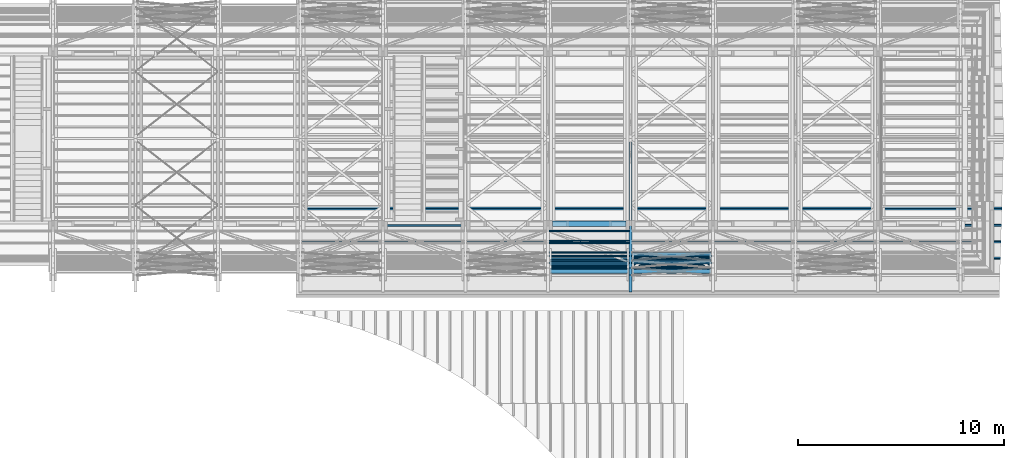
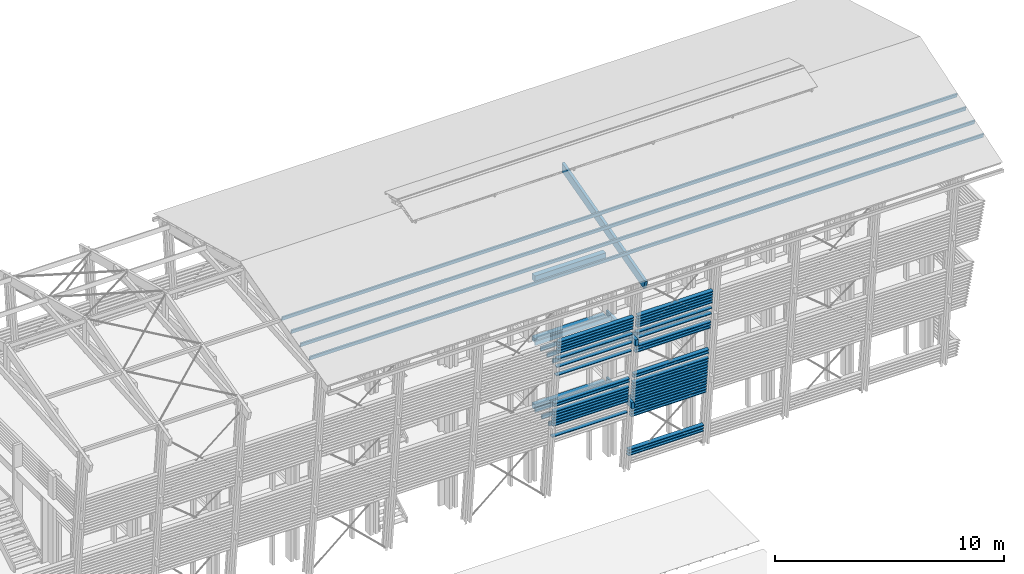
# One storey, part 17 of 48: 64 beams.
"""IFC2X3 building model written with IfcOpenShell, lengths in metres."""

import ifcopenshell
import ifcopenshell.guid

model = None  # the IFC model being written
_history = None  # IfcOwnerHistory: only IFC2X3 demands one
_inside = {}  # id of a spatial element -> (the spatial element, [elements in it])
_under = {}  # id of a project, library or spatial element -> (it, [spatial elements below it])
_declared = {}  # id of a project -> (the project, [libraries it declares])
_typed = {}  # id of a type object -> (the type object, [elements of that type])
_made_of = {}  # id of a material, layer set ... -> (it, [elements and type objects made of it])


def new_model(schema):
    """Start an empty IFC model of exactly this schema.

    Asked for "IFC4X3", IfcOpenShell would pick the latest addendum, in which some entities
    have other attributes; the version numbers below select the first issue.
    IFC2X3 requires an IfcOwnerHistory on every rooted entity: one is made here for all.
    """
    global model, _history
    if schema == "IFC4X3":
        model = ifcopenshell.file(schema_version=(4, 3, 0, 0))
    else:
        model = ifcopenshell.file(schema=schema)
    _inside.clear()
    _under.clear()
    _declared.clear()
    _typed.clear()
    _made_of.clear()
    _history = None
    if model.schema == "IFC2X3":
        org = make("IfcOrganization", Name="unknown")
        user = make(
            "IfcPersonAndOrganization",
            ThePerson=make("IfcPerson", FamilyName="unknown"),
            TheOrganization=org,
        )
        app = make(
            "IfcApplication",
            ApplicationDeveloper=org,
            Version="unknown",
            ApplicationFullName="unknown",
            ApplicationIdentifier="unknown",
        )
        _history = make(
            "IfcOwnerHistory",
            OwningUser=user,
            OwningApplication=app,
            ChangeAction="ADDED",
            CreationDate=0,
        )
    return model


def make(cls, **values):
    """One entity of the class cls with the attributes given. An attribute that is None is left unset."""
    return model.create_entity(
        cls, **{name: value for name, value in values.items() if value is not None}
    )


def rooted(cls, **values):
    """An entity with a GlobalId (a new one), such as an element, a storey or a relation."""
    return make(cls, GlobalId=ifcopenshell.guid.new(), OwnerHistory=_history, **values)


def si_unit(unit_type, name, prefix=None):
    """IfcSIUnit, for example si_unit("LENGTHUNIT", "METRE", prefix="MILLI")."""
    return make("IfcSIUnit", UnitType=unit_type, Prefix=prefix, Name=name)


def assignment(units):
    """IfcUnitAssignment: the units of a project."""
    return None if units is None else make("IfcUnitAssignment", Units=units)


def point(xyz):
    """IfcCartesianPoint."""
    return None if xyz is None else make("IfcCartesianPoint", Coordinates=xyz)


def direction(xyz):
    """IfcDirection."""
    return None if xyz is None else make("IfcDirection", DirectionRatios=xyz)


def frame(location, z_axis=None, x_axis=None):
    """IfcAxis2Placement3D, a coordinate frame: its origin and axes. An axis left out is left unset."""
    return make(
        "IfcAxis2Placement3D",
        Location=point(location),
        Axis=direction(z_axis),
        RefDirection=direction(x_axis),
    )


def origin_with_axes():
    """The frame at (0, 0, 0) with the z axis (0, 0, 1) and the x axis (1, 0, 0) written out."""
    return frame((0.0, 0.0, 0.0), z_axis=(0.0, 0.0, 1.0), x_axis=(1.0, 0.0, 0.0))


def place(relative_to, where):
    """IfcLocalPlacement: puts the frame where relative to a parent placement (None: the world)."""
    return make(
        "IfcLocalPlacement", PlacementRelTo=relative_to, RelativePlacement=where
    )


def context(
    kind, dimensions, precision=None, world=None, true_north=None, identifier=None
):
    """IfcGeometricRepresentationContext, for example the 3D "Model" context."""
    return make(
        "IfcGeometricRepresentationContext",
        ContextIdentifier=identifier,
        ContextType=kind,
        CoordinateSpaceDimension=dimensions,
        Precision=precision,
        WorldCoordinateSystem=world,
        TrueNorth=true_north,
    )


def subcontext(parent, identifier, kind, view, scale=None):
    """IfcGeometricRepresentationSubContext, for example "Body" below "Model"."""
    return make(
        "IfcGeometricRepresentationSubContext",
        ContextIdentifier=identifier,
        ContextType=kind,
        ParentContext=parent,
        TargetScale=scale,
        TargetView=view,
    )


def project(units=None, contexts=None):
    """IfcProject with its units and contexts."""
    return rooted(
        "IfcProject",
        Name="project",
        RepresentationContexts=contexts,
        UnitsInContext=assignment(units),
    )


def spatial(cls, under=None, at=None, **own):
    """A site, building, storey or space (cls), placed at a placement, below another one or the project."""
    s = rooted(cls, ObjectPlacement=at, **own)
    if under is not None:
        _under.setdefault(under.id(), (under, []))[1].append(s)
    return s


def faces_of(points, faces, orient=None, outer=None):
    """IfcFace entities. A face is a list of loops; a loop is a list of indices into points, from 0.

    orient and outer hold one flag for each loop. By default every Orientation is true, the
    first loop of a face is its IfcFaceOuterBound and the others are IfcFaceBound.
    """
    made = []
    for i, loops in enumerate(faces):
        bounds = []
        for j, loop in enumerate(loops):
            is_outer = j == 0 if outer is None else outer[i][j]
            bounds.append(
                make(
                    "IfcFaceOuterBound" if is_outer else "IfcFaceBound",
                    Bound=make("IfcPolyLoop", Polygon=[points[k] for k in loop]),
                    Orientation=True if orient is None else orient[i][j],
                )
            )
        made.append(make("IfcFace", Bounds=bounds))
    return made


def faceted_brep(points, faces, orient=None, outer=None, voids=None):
    """IfcFacetedBrep: a solid bounded by flat faces; with voids (closed shells), ...WithVoids."""
    shared = [point(p) for p in points]
    hull = make("IfcClosedShell", CfsFaces=faces_of(shared, faces, orient, outer))
    if voids is None:
        return make("IfcFacetedBrep", Outer=hull)
    return make(
        "IfcFacetedBrepWithVoids",
        Outer=hull,
        Voids=[
            make(cls, CfsFaces=faces_of(shared, fs, o, b)) for cls, fs, o, b in voids
        ],
    )


def shape(context_of_items, identifier, shape_type, items):
    """IfcShapeRepresentation: the items that make up one representation, for example the "Body"."""
    return make(
        "IfcShapeRepresentation",
        ContextOfItems=context_of_items,
        RepresentationIdentifier=identifier,
        RepresentationType=shape_type,
        Items=items,
    )


def material(Name=None, Category=None):
    """IfcMaterial."""
    return make("IfcMaterial", Name=Name, Category=Category)


def made_of(thing, what):
    """Note that an element or type object is made of a material, layer set ...; save() writes the relation."""
    if what is not None:
        _made_of.setdefault(what.id(), (what, []))[1].append(thing)
    return thing


def element(
    cls,
    number,
    at=None,
    inside=None,
    cuts=None,
    type_object=None,
    material=None,
    context=None,
    identifier="Body",
    shape_type=None,
    held_by="IfcProductDefinitionShape",
    body=None,
    shapes=None,
    **own,
):
    """One element of the class cls, such as IfcWall. Its Tag is "e" and its number.

    at: its placement. inside: the storey or other place that contains it. cuts: it is an
    opening in that element (IfcRelVoidsElement). A single representation is given by context,
    identifier, shape_type and body (its items); several are given by shapes. held_by: the class
    of the entity that holds the representations. save() writes the other relations.
    """
    e = rooted(cls, Tag="e%d" % number, ObjectPlacement=at, **own)
    if body is not None:
        shapes = [shape(context, identifier, shape_type, body)]
    if shapes is not None:
        e.Representation = make(held_by, Representations=shapes)
    if inside is not None:
        _inside.setdefault(inside.id(), (inside, []))[1].append(e)
    if cuts is not None:
        rooted(
            "IfcRelVoidsElement", RelatingBuildingElement=cuts, RelatedOpeningElement=e
        )
    if type_object is not None:
        _typed.setdefault(type_object.id(), (type_object, []))[1].append(e)
    return made_of(e, material)


def aggregate(whole, parts):
    """IfcRelAggregates: a whole, such as a stair, and the parts it consists of."""
    return rooted("IfcRelAggregates", RelatingObject=whole, RelatedObjects=parts)


def save(model, path):
    """Write the relations noted so far, then the file.

    IfcRelAggregates (storeys below a building ...), IfcRelContainedInSpatialStructure (elements
    in a storey), IfcRelDefinesByType, IfcRelAssociatesMaterial and IfcRelDeclares: one each for
    every whole, place, type object, material and project.
    """
    for whole, parts in _under.values():
        aggregate(whole, parts)
    for where, things in _inside.values():
        rooted(
            "IfcRelContainedInSpatialStructure",
            RelatedElements=things,
            RelatingStructure=where,
        )
    for kind, things in _typed.values():
        rooted("IfcRelDefinesByType", RelatedObjects=things, RelatingType=kind)
    for what, things in _made_of.values():
        rooted("IfcRelAssociatesMaterial", RelatedObjects=things, RelatingMaterial=what)
    for by, libraries in _declared.values():
        rooted("IfcRelDeclares", RelatingContext=by, RelatedDefinitions=libraries)
    model.write(path)


model = new_model("IFC2X3")

# Units and contexts
model_context = context("Model", 3, precision=1e-06, world=origin_with_axes(), true_north=direction((0.0, 1.0, 0.0)))
body_context = subcontext(model_context, "Body", "Model", "MODEL_VIEW")
ifc_project = project(units=[si_unit("LENGTHUNIT", "METRE"), si_unit("AREAUNIT", "SQUARE_METRE"), si_unit("VOLUMEUNIT", "CUBIC_METRE"), si_unit("PLANEANGLEUNIT", "RADIAN")], contexts=[model_context])

# Site, building, storey
site_placement = place(None, origin_with_axes())
site = spatial("IfcSite", under=ifc_project, at=site_placement, CompositionType="ELEMENT")
building_placement = place(site_placement, origin_with_axes())
building = spatial("IfcBuilding", under=site, at=building_placement, Name="Building 1", CompositionType="ELEMENT")
storey_placement = place(building_placement, origin_with_axes())
storey = spatial("IfcBuildingStorey", under=building, at=storey_placement, Name="Storey 1", CompositionType="ELEMENT", Elevation=0.0)

# Beams
ifc_material_1 = material(Name="GL28h")
beam_1_placement = place(storey_placement, frame((53.5597437, -194.898689, 4.139), z_axis=(0.0, 0.0, 1.0), x_axis=(1.0, 0.0, 0.0)))
element("IfcBeam", 1, at=beam_1_placement, inside=storey, material=ifc_material_1, Name="Solive", context=body_context, shape_type="Brep", body=[
    faceted_brep([(3.86, 0.035, 0.11), (3.86, 0.035, -0.11), (0.0, 0.035, -0.11), (0.0, 0.035, 0.11), (3.86, -0.035, -0.11), (0.0, -0.035, -0.11), (3.86, -0.035, 0.11), (0.0, -0.035, 0.11)], [[[0, 1, 2, 3]], [[1, 4, 5, 2]], [[4, 6, 7, 5]], [[6, 0, 3, 7]], [[1, 0, 6, 4]], [[7, 3, 2, 5]]]),
])
beam_2_placement = place(storey_placement, frame((71.4757559, -193.4086075, 12.399615), z_axis=(0.0, -0.258819, 0.9659258), x_axis=(-1.0, 0.0, 0.0)))
element("IfcBeam", 2, at=beam_2_placement, inside=storey, material=ifc_material_1, Name="pannes", context=body_context, shape_type="Brep", body=[
    faceted_brep([(0.0019346, 0.035, -0.11), (0.0, -0.035, -0.11), (0.0016292, -0.035, 0.11), (0.0035637, 0.035, 0.11), (34.0560122, -0.035, -0.11), (34.0560122, -0.035, 0.11), (34.0560122, 0.035, -0.11), (34.0560122, 0.035, 0.11)], [[[0, 1, 2, 3]], [[2, 1, 4, 5]], [[1, 0, 6, 4]], [[0, 3, 7, 6]], [[3, 2, 5, 7]], [[5, 4, 6, 7]]]),
])
beam_3_placement = place(storey_placement, frame((71.4988327, -192.6020595, 12.6157289), z_axis=(0.0, -0.258819, 0.9659258), x_axis=(-1.0, 0.0, 0.0)))
element("IfcBeam", 3, at=beam_3_placement, inside=storey, material=ifc_material_1, Name="pannes", context=body_context, shape_type="Brep", body=[
    faceted_brep([(0.0019346, 0.035, -0.11), (0.0, -0.035, -0.11), (0.0016292, -0.035, 0.11), (0.0035637, 0.035, 0.11), (34.079089, -0.035, -0.11), (34.079089, -0.035, 0.11), (34.079089, 0.035, -0.11), (34.079089, 0.035, 0.11)], [[[0, 1, 2, 3]], [[2, 1, 4, 5]], [[1, 0, 6, 4]], [[0, 3, 7, 6]], [[3, 2, 5, 7]], [[5, 4, 6, 7]]]),
])
beam_4_placement = place(storey_placement, frame((71.4296024, -195.0217037, 11.9673872), z_axis=(0.0, -0.258819, 0.9659258), x_axis=(-1.0, 0.0, 0.0)))
element("IfcBeam", 4, at=beam_4_placement, inside=storey, material=ifc_material_1, Name="pannes", context=body_context, shape_type="Brep", body=[
    faceted_brep([(0.0019346, 0.035, -0.11), (0.0, -0.035, -0.11), (0.0016292, -0.035, 0.11), (0.0035637, 0.035, 0.11), (34.0098587, -0.035, -0.11), (34.0098587, -0.035, 0.11), (34.0098587, 0.035, -0.11), (34.0098587, 0.035, 0.11)], [[[0, 1, 2, 3]], [[2, 1, 4, 5]], [[1, 0, 6, 4]], [[0, 3, 7, 6]], [[3, 2, 5, 7]], [[5, 4, 6, 7]]]),
])
beam_5_placement = place(storey_placement, frame((71.4526792, -194.2151556, 12.1835011), z_axis=(0.0, -0.258819, 0.9659258), x_axis=(-1.0, 0.0, 0.0)))
element("IfcBeam", 5, at=beam_5_placement, inside=storey, material=ifc_material_1, Name="pannes", context=body_context, shape_type="Brep", body=[
    faceted_brep([(0.0019346, 0.035, -0.11), (0.0, -0.035, -0.11), (0.0016292, -0.035, 0.11), (0.0035637, 0.035, 0.11), (34.0329355, -0.035, -0.11), (34.0329355, -0.035, 0.11), (34.0329355, 0.035, -0.11), (34.0329355, 0.035, 0.11)], [[[0, 1, 2, 3]], [[2, 1, 4, 5]], [[1, 0, 6, 4]], [[0, 3, 7, 6]], [[3, 2, 5, 7]], [[5, 4, 6, 7]]]),
])
ifc_material_2 = material(Name="Moabi")
beam_6_placement = place(storey_placement, frame((57.3927439, -195.0773447, 3.5773858), z_axis=(0.0, 0.9945219, 0.1045285), x_axis=(-1.0, 0.0, 0.0)))
element("IfcBeam", 6, at=beam_6_placement, inside=storey, material=ifc_material_2, Name="garde corp", context=body_context, shape_type="Brep", body=[
    faceted_brep([(3.8047071, 0.02, -0.1), (3.8047071, -0.02, -0.1), (0.0, -0.02, -0.1), (0.0, 0.02, -0.1), (3.8047071, -0.02, 0.1), (0.0, -0.02, 0.1), (3.8047071, 0.02, 0.1), (0.0, 0.02, 0.1)], [[[0, 1, 2, 3]], [[1, 4, 5, 2]], [[4, 6, 7, 5]], [[6, 0, 3, 7]], [[1, 0, 6, 4]], [[7, 3, 2, 5]]]),
])
for number, where, z_axis, x_axis, name in (
    (7, (57.3927441, -195.4285604, 6.9189793), (0.0, 0.9945219, 0.1045285), (-1.0, 0.0, 0.0), "garde corp"),
    (8, (57.3927441, -195.4620095, 7.2372263), (0.0, 0.9945219, 0.1045285), (-1.0, 0.0, 0.0), "garde corp"),
):
    element("IfcBeam", number, at=place(storey_placement, frame(where, z_axis=z_axis, x_axis=x_axis)), inside=storey, material=ifc_material_2, Name=name, context=body_context, shape_type="Brep", body=[
        faceted_brep([(3.8050008, 0.02, -0.1), (3.8050008, -0.02, -0.1), (0.0, -0.02, -0.1), (0.0, 0.02, -0.1), (3.8050008, -0.02, 0.1), (0.0, -0.02, 0.1), (3.8050008, 0.02, 0.1), (0.0, 0.02, 0.1)], [[[0, 1, 2, 3]], [[1, 4, 5, 2]], [[4, 6, 7, 5]], [[6, 0, 3, 7]], [[1, 0, 6, 4]], [[7, 3, 2, 5]]]),
    ])
beam_7_placement = place(storey_placement, frame((57.3927439, -195.2278657, 5.0094973), z_axis=(0.0, 0.9945219, 0.1045285), x_axis=(-1.0, 0.0, 0.0)))
element("IfcBeam", 9, at=beam_7_placement, inside=storey, material=ifc_material_2, Name="garde corp", context=body_context, shape_type="Brep", body=[
    faceted_brep([(3.8047069, 0.02, -0.1), (3.8047071, -0.02, -0.1), (0.0, -0.02, -0.1), (0.0, 0.02, -0.1), (3.8047069, -0.02, 0.1), (0.0, -0.02, 0.1), (3.8047071, 0.02, 0.1), (0.0, 0.02, 0.1)], [[[0, 1, 2, 3]], [[1, 4, 5, 2]], [[4, 6, 7, 5]], [[6, 0, 3, 7]], [[1, 0, 6, 4]], [[7, 3, 2, 5]]]),
])
beam_8_placement = place(storey_placement, frame((57.3927439, -195.1609675, 4.3730033), z_axis=(0.0, 0.9945219, 0.1045285), x_axis=(-1.0, 0.0, 0.0)))
element("IfcBeam", 10, at=beam_8_placement, inside=storey, material=ifc_material_2, Name="garde corp", context=body_context, shape_type="Brep", body=[
    faceted_brep([(3.8048051, 0.02, -0.1), (3.8048051, -0.02, -0.1), (0.0, -0.02, -0.1), (0.0, 0.02, -0.1), (3.8048051, -0.02, 0.1), (0.0, -0.02, 0.1), (3.8048051, 0.02, 0.1), (0.0, 0.02, 0.1)], [[[0, 1, 2, 3]], [[1, 4, 5, 2]], [[4, 6, 7, 5]], [[6, 0, 3, 7]], [[1, 0, 6, 4]], [[7, 3, 2, 5]]]),
])
beam_9_placement = place(storey_placement, frame((57.3927441, -195.5790813, 8.3510909), z_axis=(0.0, 0.9945219, 0.1045285), x_axis=(-1.0, 0.0, 0.0)))
element("IfcBeam", 11, at=beam_9_placement, inside=storey, material=ifc_material_2, Name="garde corp", context=body_context, shape_type="Brep", body=[
    faceted_brep([(3.8050008, 0.02, -0.1), (3.8050008, -0.02, -0.1), (0.0, -0.02, -0.1), (0.0, 0.02, -0.1), (3.8050008, -0.02, 0.1), (0.0, -0.02, 0.1), (3.8050008, 0.02, 0.1), (0.0, 0.02, 0.1)], [[[0, 1, 2, 3]], [[1, 4, 5, 2]], [[4, 6, 7, 5]], [[6, 0, 3, 7]], [[1, 0, 6, 4]], [[7, 3, 2, 5]]]),
])
beam_10_placement = place(storey_placement, frame((49.5597437, -193.6846515, 4.139), z_axis=(0.0, 0.0, 1.0), x_axis=(1.0, 0.0, 0.0)))
element("IfcBeam", 12, at=beam_10_placement, inside=storey, material=ifc_material_1, Name="Solive", context=body_context, shape_type="Brep", body=[
    faceted_brep([(3.86, 0.035, 0.11), (3.86, 0.035, -0.11), (0.0, 0.035, -0.11), (0.0, 0.035, 0.11), (3.86, -0.035, -0.11), (0.0, -0.035, -0.11), (3.86, -0.035, 0.11), (0.0, -0.035, 0.11)], [[[0, 1, 2, 3]], [[1, 4, 5, 2]], [[4, 6, 7, 5]], [[6, 0, 3, 7]], [[1, 0, 6, 4]], [[7, 3, 2, 5]]]),
])
beam_11_placement = place(storey_placement, frame((49.5597437, -195.2446515, 7.699), z_axis=(0.0, 0.0, 1.0), x_axis=(1.0, 0.0, 0.0)))
element("IfcBeam", 13, at=beam_11_placement, inside=storey, material=ifc_material_1, Name="Solive", context=body_context, shape_type="Brep", body=[
    faceted_brep([(0.0, -0.035, -0.11), (0.0, -0.035, 0.11), (0.0, 0.035, 0.11), (0.0, 0.035, -0.11), (3.8599996, -0.035, 0.11), (3.8599996, 0.035, 0.11), (3.8599996, -0.035, -0.11), (3.8599996, 0.035, -0.11)], [[[0, 1, 2, 3]], [[2, 1, 4, 5]], [[1, 0, 6, 4]], [[0, 3, 7, 6]], [[3, 2, 5, 7]], [[7, 5, 4, 6]]]),
])
beam_12_placement = place(storey_placement, frame((53.3927441, -195.4954586, 7.5554733), z_axis=(0.0, 0.9945219, 0.1045285), x_axis=(-1.0, 0.0, 0.0)))
element("IfcBeam", 14, at=beam_12_placement, inside=storey, material=ifc_material_2, Name="garde corp", context=body_context, shape_type="Brep", body=[
    faceted_brep([(3.806, 0.02, -0.1), (3.806, -0.02, -0.1), (0.0, -0.02, -0.1), (0.0, 0.02, -0.1), (3.806, -0.02, 0.1), (0.0, -0.02, 0.1), (3.806, 0.02, 0.1), (0.0, 0.02, 0.1)], [[[0, 1, 2, 3]], [[1, 4, 5, 2]], [[4, 6, 7, 5]], [[6, 0, 3, 7]], [[1, 0, 6, 4]], [[7, 3, 2, 5]]]),
])
beam_13_placement = place(storey_placement, frame((57.3927441, -195.629255, 8.8284614), z_axis=(0.0, 0.9945219, 0.1045285), x_axis=(-1.0, 0.0, 0.0)))
element("IfcBeam", 15, at=beam_13_placement, inside=storey, material=ifc_material_2, Name="garde corp", context=body_context, shape_type="Brep", body=[
    faceted_brep([(3.8050008, 0.02, -0.1), (3.8050008, -0.02, -0.1), (0.0, -0.02, -0.1), (0.0, 0.02, -0.1), (3.8050008, -0.02, 0.1), (0.0, -0.02, 0.1), (3.8050008, 0.02, 0.1), (0.0, 0.02, 0.1)], [[[0, 1, 2, 3]], [[1, 4, 5, 2]], [[4, 6, 7, 5]], [[6, 0, 3, 7]], [[1, 0, 6, 4]], [[7, 3, 2, 5]]]),
])
for number, where, z_axis, x_axis, name in (
    (16, (53.3927441, -195.5790813, 8.3510909), (0.0, 0.9945219, 0.1045285), (-1.0, 0.0, 0.0), "garde corp"),
    (17, (53.3927437, -195.5456322, 8.0328439), (0.0, 0.9945219, 0.1045285), (-1.0, 0.0, 0.0), "garde corp"),
):
    element("IfcBeam", number, at=place(storey_placement, frame(where, z_axis=z_axis, x_axis=x_axis)), inside=storey, material=ifc_material_2, Name=name, context=body_context, shape_type="Brep", body=[
        faceted_brep([(3.806, 0.02, -0.1), (3.806, -0.02, -0.1), (0.0, -0.02, -0.1), (0.0, 0.02, -0.1), (3.806, -0.02, 0.1), (0.0, -0.02, 0.1), (3.806, 0.02, 0.1), (0.0, 0.02, 0.1)], [[[0, 1, 2, 3]], [[1, 4, 5, 2]], [[4, 6, 7, 5]], [[6, 0, 3, 7]], [[1, 0, 6, 4]], [[7, 3, 2, 5]]]),
    ])
beam_14_placement = place(storey_placement, frame((53.3927439, -195.177692, 4.5321268), z_axis=(0.0, 0.9945219, 0.1045285), x_axis=(-1.0, 0.0, 0.0)))
element("IfcBeam", 18, at=beam_14_placement, inside=storey, material=ifc_material_2, Name="garde corp", context=body_context, shape_type="Brep", body=[
    faceted_brep([(3.8047069, 0.02, -0.1), (3.8047071, -0.02, -0.1), (0.0, -0.02, -0.1), (0.0, 0.02, -0.1), (3.8047069, -0.02, 0.1), (0.0, -0.02, 0.1), (3.8047071, 0.02, 0.1), (0.0, 0.02, 0.1)], [[[0, 1, 2, 3]], [[1, 4, 5, 2]], [[4, 6, 7, 5]], [[6, 0, 3, 7]], [[1, 0, 6, 4]], [[7, 3, 2, 5]]]),
])
beam_15_placement = place(storey_placement, frame((53.3927439, -195.2780394, 5.4868678), z_axis=(0.0, 0.9945219, 0.1045285), x_axis=(-1.0, 0.0, 0.0)))
element("IfcBeam", 19, at=beam_15_placement, inside=storey, material=ifc_material_2, Name="garde corp", context=body_context, shape_type="Brep", body=[
    faceted_brep([(3.8047069, 0.02, -0.1), (3.8047069, -0.02, -0.1), (0.0, -0.02, -0.1), (0.0, 0.02, -0.1), (3.8047069, -0.02, 0.1), (0.0, -0.02, 0.1), (3.8047071, 0.02, 0.1), (0.0, 0.02, 0.1)], [[[0, 1, 2, 3]], [[1, 4, 5, 2]], [[4, 6, 7, 5]], [[6, 0, 3, 7]], [[1, 0, 6, 4]], [[7, 3, 2, 5]]]),
])
beam_16_placement = place(storey_placement, frame((53.3927441, -195.5958059, 8.5102144), z_axis=(0.0, 0.9945219, 0.1045285), x_axis=(-1.0, 0.0, 0.0)))
element("IfcBeam", 20, at=beam_16_placement, inside=storey, material=ifc_material_2, Name="garde corp", context=body_context, shape_type="Brep", body=[
    faceted_brep([(3.806, 0.02, -0.1), (3.806, -0.02, -0.1), (0.0, -0.02, -0.1), (0.0, 0.02, -0.1), (3.806, -0.02, 0.1), (0.0, -0.02, 0.1), (3.806, 0.02, 0.1), (0.0, 0.02, 0.1)], [[[0, 1, 2, 3]], [[1, 4, 5, 2]], [[4, 6, 7, 5]], [[6, 0, 3, 7]], [[1, 0, 6, 4]], [[7, 3, 2, 5]]]),
])
beam_17_placement = place(storey_placement, frame((53.3927439, -195.2278657, 5.0094973), z_axis=(0.0, 0.9945219, 0.1045285), x_axis=(-1.0, 0.0, 0.0)))
element("IfcBeam", 21, at=beam_17_placement, inside=storey, material=ifc_material_2, Name="garde corp", context=body_context, shape_type="Brep", body=[
    faceted_brep([(3.8047069, 0.02, -0.1), (3.8047071, -0.02, -0.1), (0.0, -0.02, -0.1), (0.0, 0.02, -0.1), (3.8047069, -0.02, 0.1), (0.0, -0.02, 0.1), (3.8047071, 0.02, 0.1), (0.0, 0.02, 0.1)], [[[0, 1, 2, 3]], [[1, 4, 5, 2]], [[4, 6, 7, 5]], [[6, 0, 3, 7]], [[1, 0, 6, 4]], [[7, 3, 2, 5]]]),
])
beam_18_placement = place(storey_placement, frame((53.3927441, -195.629255, 8.8284614), z_axis=(0.0, 0.9945219, 0.1045285), x_axis=(-1.0, 0.0, 0.0)))
element("IfcBeam", 22, at=beam_18_placement, inside=storey, material=ifc_material_2, Name="garde corp", context=body_context, shape_type="Brep", body=[
    faceted_brep([(3.806, 0.02, -0.1), (3.806, -0.02, -0.1), (0.0, -0.02, -0.1), (0.0, 0.02, -0.1), (3.806, -0.02, 0.1), (0.0, -0.02, 0.1), (3.806, 0.02, 0.1), (0.0, 0.02, 0.1)], [[[0, 1, 2, 3]], [[1, 4, 5, 2]], [[4, 6, 7, 5]], [[6, 0, 3, 7]], [[1, 0, 6, 4]], [[7, 3, 2, 5]]]),
])
beam_19_placement = place(storey_placement, frame((53.3927439, -195.1944166, 4.6912503), z_axis=(0.0, 0.9945219, 0.1045285), x_axis=(-1.0, 0.0, 0.0)))
element("IfcBeam", 23, at=beam_19_placement, inside=storey, material=ifc_material_2, Name="garde corp", context=body_context, shape_type="Brep", body=[
    faceted_brep([(3.8047069, 0.02, -0.1), (3.8047071, -0.02, -0.1), (0.0, -0.02, -0.1), (0.0, 0.02, -0.1), (3.8047071, -0.02, 0.1), (0.0, -0.02, 0.1), (3.8047071, 0.02, 0.1), (0.0, 0.02, 0.1)], [[[0, 1, 2, 3]], [[1, 4, 5, 2]], [[4, 6, 7, 5]], [[6, 0, 3, 7]], [[1, 0, 6, 4]], [[7, 3, 2, 5]]]),
])
beam_20_placement = place(storey_placement, frame((53.3927439, -195.2613148, 5.3277443), z_axis=(0.0, 0.9945219, 0.1045285), x_axis=(-1.0, 0.0, 0.0)))
element("IfcBeam", 24, at=beam_20_placement, inside=storey, material=ifc_material_2, Name="garde corp", context=body_context, shape_type="Brep", body=[
    faceted_brep([(3.8048055, 0.02, -0.1), (3.8048055, -0.02, -0.1), (0.0, -0.02, -0.1), (0.0, 0.02, -0.1), (3.8048055, -0.02, 0.1), (0.0, -0.02, 0.1), (3.8048055, 0.02, 0.1), (0.0, 0.02, 0.1)], [[[0, 1, 2, 3]], [[1, 4, 5, 2]], [[4, 6, 7, 5]], [[6, 0, 3, 7]], [[1, 0, 6, 4]], [[7, 3, 2, 5]]]),
])
beam_21_placement = place(storey_placement, frame((53.3927439, -195.0773447, 3.5773858), z_axis=(0.0, 0.9945219, 0.1045285), x_axis=(-1.0, 0.0, 0.0)))
element("IfcBeam", 25, at=beam_21_placement, inside=storey, material=ifc_material_2, Name="garde corp", context=body_context, shape_type="Brep", body=[
    faceted_brep([(3.8047071, 0.02, -0.1), (3.8047071, -0.02, -0.1), (0.0, -0.02, -0.1), (0.0, 0.02, -0.1), (3.8047071, -0.02, 0.1), (0.0, -0.02, 0.1), (3.8047071, 0.02, 0.1), (0.0, 0.02, 0.1)], [[[0, 1, 2, 3]], [[1, 4, 5, 2]], [[4, 6, 7, 5]], [[6, 0, 3, 7]], [[1, 0, 6, 4]], [[7, 3, 2, 5]]]),
])
beam_22_placement = place(storey_placement, frame((53.3927439, -195.1442429, 4.2138798), z_axis=(0.0, 0.9945219, 0.1045285), x_axis=(-1.0, 0.0, 0.0)))
element("IfcBeam", 26, at=beam_22_placement, inside=storey, material=ifc_material_2, Name="garde corp", context=body_context, shape_type="Brep", body=[
    faceted_brep([(3.8048051, 0.02, -0.1), (3.8048051, -0.02, -0.1), (0.0, -0.02, -0.1), (0.0, 0.02, -0.1), (3.8048051, -0.02, 0.1), (0.0, -0.02, 0.1), (3.8048051, 0.02, 0.1), (0.0, 0.02, 0.1)], [[[0, 1, 2, 3]], [[1, 4, 5, 2]], [[4, 6, 7, 5]], [[6, 0, 3, 7]], [[1, 0, 6, 4]], [[7, 3, 2, 5]]]),
])
beam_23_placement = place(storey_placement, frame((53.3927439, -195.2111412, 4.8503738), z_axis=(0.0, 0.9945219, 0.1045285), x_axis=(-1.0, 0.0, 0.0)))
element("IfcBeam", 27, at=beam_23_placement, inside=storey, material=ifc_material_2, Name="garde corp", context=body_context, shape_type="Brep", body=[
    faceted_brep([(3.8048055, 0.02, -0.1), (3.8048055, -0.02, -0.1), (0.0, -0.02, -0.1), (0.0, 0.02, -0.1), (3.8048055, -0.02, 0.1), (0.0, -0.02, 0.1), (3.8048055, 0.02, 0.1), (0.0, 0.02, 0.1)], [[[0, 1, 2, 3]], [[1, 4, 5, 2]], [[4, 6, 7, 5]], [[6, 0, 3, 7]], [[1, 0, 6, 4]], [[7, 3, 2, 5]]]),
])
beam_24_placement = place(storey_placement, frame((53.3927439, -195.1609675, 4.3730033), z_axis=(0.0, 0.9945219, 0.1045285), x_axis=(-1.0, 0.0, 0.0)))
element("IfcBeam", 28, at=beam_24_placement, inside=storey, material=ifc_material_2, Name="garde corp", context=body_context, shape_type="Brep", body=[
    faceted_brep([(3.8048051, 0.02, -0.1), (3.8048051, -0.02, -0.1), (0.0, -0.02, -0.1), (0.0, 0.02, -0.1), (3.8048051, -0.02, 0.1), (0.0, -0.02, 0.1), (3.8048051, 0.02, 0.1), (0.0, 0.02, 0.1)], [[[0, 1, 2, 3]], [[1, 4, 5, 2]], [[4, 6, 7, 5]], [[6, 0, 3, 7]], [[1, 0, 6, 4]], [[7, 3, 2, 5]]]),
])
for number, where, z_axis, x_axis, name in (
    (29, (53.3927441, -195.4452849, 7.0781028), (0.0, 0.9945219, 0.1045285), (-1.0, 0.0, 0.0), "garde corp"),
    (30, (53.3927437, -195.6459796, 8.9875849), (0.0, 0.9945219, 0.1045285), (-1.0, 0.0, 0.0), "garde corp"),
    (31, (53.3927437, -195.6125305, 8.6693379), (0.0, 0.9945219, 0.1045285), (-1.0, 0.0, 0.0), "garde corp"),
):
    element("IfcBeam", number, at=place(storey_placement, frame(where, z_axis=z_axis, x_axis=x_axis)), inside=storey, material=ifc_material_2, Name=name, context=body_context, shape_type="Brep", body=[
        faceted_brep([(3.806, 0.02, -0.1), (3.806, -0.02, -0.1), (0.0, -0.02, -0.1), (0.0, 0.02, -0.1), (3.806, -0.02, 0.1), (0.0, -0.02, 0.1), (3.806, 0.02, 0.1), (0.0, 0.02, 0.1)], [[[0, 1, 2, 3]], [[1, 4, 5, 2]], [[4, 6, 7, 5]], [[6, 0, 3, 7]], [[1, 0, 6, 4]], [[7, 3, 2, 5]]]),
    ])
beam_25_placement = place(storey_placement, frame((49.5597437, -194.1646515, 7.699), z_axis=(0.0, 0.0, 1.0), x_axis=(1.0, 0.0, 0.0)))
element("IfcBeam", 32, at=beam_25_placement, inside=storey, material=ifc_material_1, Name="Solive", context=body_context, shape_type="Brep", body=[
    faceted_brep([(3.86, 0.035, 0.11), (3.86, 0.035, -0.11), (0.0, 0.035, -0.11), (0.0, 0.035, 0.11), (3.86, -0.035, -0.11), (0.0, -0.035, -0.11), (3.86, -0.035, 0.11), (0.0, -0.035, 0.11)], [[[0, 1, 2, 3]], [[1, 4, 5, 2]], [[4, 6, 7, 5]], [[6, 0, 3, 7]], [[1, 0, 6, 4]], [[7, 3, 2, 5]]]),
])
beam_26_placement = place(storey_placement, frame((53.5597437, -195.2446515, 7.699), z_axis=(0.0, 0.0, 1.0), x_axis=(1.0, 0.0, 0.0)))
element("IfcBeam", 33, at=beam_26_placement, inside=storey, material=ifc_material_1, Name="Solive", context=body_context, shape_type="Brep", body=[
    faceted_brep([(0.0, -0.035, -0.11), (0.0, -0.035, 0.11), (0.0, 0.035, 0.11), (0.0, 0.035, -0.11), (3.8599996, -0.035, 0.11), (3.8599996, 0.035, 0.11), (3.8599996, -0.035, -0.11), (3.8599996, 0.035, -0.11)], [[[0, 1, 2, 3]], [[2, 1, 4, 5]], [[1, 0, 6, 4]], [[0, 3, 7, 6]], [[3, 2, 5, 7]], [[7, 5, 4, 6]]]),
])
beam_27_placement = place(storey_placement, frame((49.5597437, -193.6846515, 7.699), z_axis=(0.0, 0.0, 1.0), x_axis=(1.0, 0.0, 0.0)))
element("IfcBeam", 34, at=beam_27_placement, inside=storey, material=ifc_material_1, Name="Solive", context=body_context, shape_type="Brep", body=[
    faceted_brep([(3.86, 0.035, 0.11), (3.86, 0.035, -0.11), (0.0, 0.035, -0.11), (0.0, 0.035, 0.11), (3.86, -0.035, -0.11), (0.0, -0.035, -0.11), (3.86, -0.035, 0.11), (0.0, -0.035, 0.11)], [[[0, 1, 2, 3]], [[1, 4, 5, 2]], [[4, 6, 7, 5]], [[6, 0, 3, 7]], [[1, 0, 6, 4]], [[7, 3, 2, 5]]]),
])
beam_28_placement = place(storey_placement, frame((57.3927439, -195.2780394, 5.4868678), z_axis=(0.0, 0.9945219, 0.1045285), x_axis=(-1.0, 0.0, 0.0)))
element("IfcBeam", 35, at=beam_28_placement, inside=storey, material=ifc_material_2, Name="garde corp", context=body_context, shape_type="Brep", body=[
    faceted_brep([(3.8047069, 0.02, -0.1), (3.8047069, -0.02, -0.1), (0.0, -0.02, -0.1), (0.0, 0.02, -0.1), (3.8047069, -0.02, 0.1), (0.0, -0.02, 0.1), (3.8047071, 0.02, 0.1), (0.0, 0.02, 0.1)], [[[0, 1, 2, 3]], [[1, 4, 5, 2]], [[4, 6, 7, 5]], [[6, 0, 3, 7]], [[1, 0, 6, 4]], [[7, 3, 2, 5]]]),
])
for number, where, z_axis, x_axis in (
    (36, (49.5597437, -194.7346515, 7.699), (0.0, 0.0, 1.0), (1.0, 0.0, 0.0)),
    (37, (49.5597437, -194.898689, 4.139), (0.0, 0.0, 1.0), (1.0, 0.0, 0.0)),
):
    element("IfcBeam", number, at=place(storey_placement, frame(where, z_axis=z_axis, x_axis=x_axis)), inside=storey, material=ifc_material_1, Name="Solive", context=body_context, shape_type="Brep", body=[
        faceted_brep([(3.86, 0.035, 0.11), (3.86, 0.035, -0.11), (0.0, 0.035, -0.11), (0.0, 0.035, 0.11), (3.86, -0.035, -0.11), (0.0, -0.035, -0.11), (3.86, -0.035, 0.11), (0.0, -0.035, 0.11)], [[[0, 1, 2, 3]], [[1, 4, 5, 2]], [[4, 6, 7, 5]], [[6, 0, 3, 7]], [[1, 0, 6, 4]], [[7, 3, 2, 5]]]),
    ])
beam_29_placement = place(storey_placement, frame((57.3927439, -195.177692, 4.5321268), z_axis=(0.0, 0.9945219, 0.1045285), x_axis=(-1.0, 0.0, 0.0)))
element("IfcBeam", 38, at=beam_29_placement, inside=storey, material=ifc_material_2, Name="garde corp", context=body_context, shape_type="Brep", body=[
    faceted_brep([(3.8047069, 0.02, -0.1), (3.8047071, -0.02, -0.1), (0.0, -0.02, -0.1), (0.0, 0.02, -0.1), (3.8047069, -0.02, 0.1), (0.0, -0.02, 0.1), (3.8047071, 0.02, 0.1), (0.0, 0.02, 0.1)], [[[0, 1, 2, 3]], [[1, 4, 5, 2]], [[4, 6, 7, 5]], [[6, 0, 3, 7]], [[1, 0, 6, 4]], [[7, 3, 2, 5]]]),
])
beam_30_placement = place(storey_placement, frame((57.3927437, -195.5456322, 8.0328439), z_axis=(0.0, 0.9945219, 0.1045285), x_axis=(-1.0, 0.0, 0.0)))
element("IfcBeam", 39, at=beam_30_placement, inside=storey, material=ifc_material_2, Name="garde corp", context=body_context, shape_type="Brep", body=[
    faceted_brep([(3.806, 0.02, -0.1), (3.806, -0.02, -0.1), (0.0, -0.02, -0.1), (0.0, 0.02, -0.1), (3.806, -0.02, 0.1), (0.0, -0.02, 0.1), (3.806, 0.02, 0.1), (0.0, 0.02, 0.1)], [[[0, 1, 2, 3]], [[1, 4, 5, 2]], [[4, 6, 7, 5]], [[6, 0, 3, 7]], [[1, 0, 6, 4]], [[7, 3, 2, 5]]]),
])
beam_31_placement = place(storey_placement, frame((57.3927441, -195.4452849, 7.0781028), z_axis=(0.0, 0.9945219, 0.1045285), x_axis=(-1.0, 0.0, 0.0)))
element("IfcBeam", 40, at=beam_31_placement, inside=storey, material=ifc_material_2, Name="garde corp", context=body_context, shape_type="Brep", body=[
    faceted_brep([(3.8050008, 0.02, -0.1), (3.8050008, -0.02, -0.1), (0.0, -0.02, -0.1), (0.0, 0.02, -0.1), (3.805, -0.02, 0.1), (0.0, -0.02, 0.1), (3.805, 0.02, 0.1), (0.0, 0.02, 0.1)], [[[0, 1, 2, 3]], [[1, 4, 5, 2]], [[4, 6, 7, 5]], [[6, 0, 3, 7]], [[1, 0, 6, 4]], [[7, 3, 2, 5]]]),
])
beam_32_placement = place(storey_placement, frame((53.4897437, -193.1896515, 4.089), z_axis=(0.0, 0.0, 1.0), x_axis=(0.0, -1.0, 0.0)))
element("IfcBeam", 41, at=beam_32_placement, inside=storey, material=ifc_material_1, Name="Sommier Coursive", context=body_context, shape_type="Brep", body=[
    faceted_brep([(0.0, 0.05, 0.16), (0.44, 0.05, 0.16), (0.44, 0.05, -0.16), (0.0, 0.05, -0.16), (0.44, 0.07, 0.16), (0.44, 0.07, -0.16), (0.0, -0.05, 0.16), (0.44, -0.05, 0.16), (0.44, -0.07, 0.16), (2.2900003, -0.07, 0.16), (2.2900003, 0.07, 0.16), (0.0, -0.05, -0.16), (0.44, -0.05, -0.16), (0.44, -0.07, -0.16), (2.2900003, 0.07, -0.16), (2.2900003, -0.07, -0.16)], [[[0, 1, 2, 3]], [[1, 4, 5, 2]], [[4, 1, 0, 6, 7, 8, 9, 10]], [[0, 3, 11, 6]], [[11, 12, 7, 6]], [[12, 13, 8, 7]], [[2, 5, 14, 15, 13, 12, 11, 3]], [[8, 13, 15, 9]], [[5, 4, 10, 14]], [[10, 9, 15, 14]]]),
])
beam_33_placement = place(storey_placement, frame((53.4897437, -193.1896515, 7.649), z_axis=(0.0, 0.0, 1.0), x_axis=(0.0, -1.0, 0.0)))
element("IfcBeam", 42, at=beam_33_placement, inside=storey, material=ifc_material_1, Name="Sommier Coursive", context=body_context, shape_type="Brep", body=[
    faceted_brep([(0.0, -0.05, -0.16), (0.44, -0.05, -0.16), (0.44, -0.05, 0.16), (0.0, -0.05, 0.16), (0.44, -0.07, -0.16), (0.44, -0.07, 0.16), (0.0, 0.05, 0.16), (0.0, 0.05, -0.16), (2.6285375, -0.07, 0.16), (2.6285375, 0.07, 0.16), (0.44, 0.07, 0.16), (0.44, 0.05, 0.16), (0.44, 0.05, -0.16), (0.44, 0.07, -0.16), (2.6285375, -0.07, -0.16), (2.6285375, 0.07, -0.16)], [[[0, 1, 2, 3]], [[1, 4, 5, 2]], [[0, 3, 6, 7]], [[3, 2, 5, 8, 9, 10, 11, 6]], [[6, 11, 12, 7]], [[11, 10, 13, 12]], [[5, 4, 14, 8]], [[1, 0, 7, 12, 13, 15, 14, 4]], [[13, 10, 9, 15]], [[9, 8, 14, 15]]]),
])
beam_34_placement = place(storey_placement, frame((57.3927439, -195.2947639, 5.6459913), z_axis=(0.0, 0.9945219, 0.1045285), x_axis=(-1.0, 0.0, 0.0)))
element("IfcBeam", 43, at=beam_34_placement, inside=storey, material=ifc_material_2, Name="garde corp", context=body_context, shape_type="Brep", body=[
    faceted_brep([(3.8048055, 0.02, -0.1), (3.8048055, -0.02, -0.1), (0.0, -0.02, -0.1), (0.0, 0.02, -0.1), (3.8048055, -0.02, 0.1), (0.0, -0.02, 0.1), (3.8048055, 0.02, 0.1), (0.0, 0.02, 0.1)], [[[0, 1, 2, 3]], [[1, 4, 5, 2]], [[4, 6, 7, 5]], [[6, 0, 3, 7]], [[1, 0, 6, 4]], [[7, 3, 2, 5]]]),
])
beam_35_placement = place(storey_placement, frame((53.4897437, -196.5806087, 11.197686), z_axis=(0.0, -0.258819, 0.9659258), x_axis=(0.0, 0.9659258, 0.258819)))
element("IfcBeam", 44, at=beam_35_placement, inside=storey, material=ifc_material_1, Name="Arbalétrier", context=body_context, shape_type="Brep", body=[
    faceted_brep([(7.4053414, 0.07, -0.23), (7.5285981, 0.07, 0.23), (7.5285981, -0.07, 0.23), (7.4053414, -0.07, -0.23), (0.0, 0.07, 0.23), (0.0, -0.07, 0.23), (0.0, 0.07, -0.23), (0.0, -0.07, -0.23)], [[[0, 1, 2, 3]], [[2, 1, 4, 5]], [[1, 0, 6, 4]], [[0, 3, 7, 6]], [[3, 2, 5, 7]], [[6, 7, 5, 4]]]),
])
beam_36_placement = place(storey_placement, frame((49.6997437, -193.3396515, 10.94), z_axis=(0.0, 0.0, 1.0), x_axis=(1.0, 0.0, 0.0)))
element("IfcBeam", 45, at=beam_36_placement, inside=storey, material=ifc_material_1, Name="Buton", context=body_context, shape_type="Brep", body=[
    faceted_brep([(0.0, 0.13, 0.16), (0.0, -0.13, 0.16), (3.58, -0.13, 0.16), (3.58, 0.13, 0.16), (0.0, -0.13, -0.16), (3.58, -0.13, -0.16), (0.0, 0.13, -0.16), (3.58, 0.13, -0.16)], [[[0, 1, 2, 3]], [[2, 1, 4, 5]], [[1, 0, 6, 4]], [[5, 4, 6, 7]], [[3, 2, 5, 7]], [[0, 3, 7, 6]]]),
])
beam_37_placement = place(storey_placement, frame((57.3927439, -195.2445903, 5.1686208), z_axis=(0.0, 0.9945219, 0.1045285), x_axis=(-1.0, 0.0, 0.0)))
element("IfcBeam", 46, at=beam_37_placement, inside=storey, material=ifc_material_2, Name="garde corp", context=body_context, shape_type="Brep", body=[
    faceted_brep([(3.8048055, 0.02, -0.1), (3.8048055, -0.02, -0.1), (0.0, -0.02, -0.1), (0.0, 0.02, -0.1), (3.8048055, -0.02, 0.1), (0.0, -0.02, 0.1), (3.8048055, 0.02, 0.1), (0.0, 0.02, 0.1)], [[[0, 1, 2, 3]], [[1, 4, 5, 2]], [[4, 6, 7, 5]], [[6, 0, 3, 7]], [[1, 0, 6, 4]], [[7, 3, 2, 5]]]),
])
for number, where, z_axis, x_axis in (
    (47, (49.6997437, -193.3396515, 7.645), (0.0, 0.0, 1.0), (1.0, 0.0, 0.0)),
    (48, (49.6997437, -193.3396515, 4.085), (0.0, 0.0, 1.0), (1.0, 0.0, 0.0)),
):
    element("IfcBeam", number, at=place(storey_placement, frame(where, z_axis=z_axis, x_axis=x_axis)), inside=storey, material=ifc_material_1, Name="Buton", context=body_context, shape_type="Brep", body=[
        faceted_brep([(0.0, 0.13, 0.13), (0.0, -0.13, 0.13), (3.58, -0.13, 0.13), (3.58, 0.13, 0.13), (0.0, -0.13, -0.13), (3.58, -0.13, -0.13), (0.0, 0.13, -0.13), (3.58, 0.13, -0.13)], [[[0, 1, 2, 3]], [[2, 1, 4, 5]], [[1, 0, 6, 4]], [[5, 4, 6, 7]], [[0, 3, 7, 6]], [[3, 2, 5, 7]]]),
    ])
beam_38_placement = place(storey_placement, frame((57.3927439, -195.1107938, 3.8956328), z_axis=(0.0, 0.9945219, 0.1045285), x_axis=(-1.0, 0.0, 0.0)))
element("IfcBeam", 49, at=beam_38_placement, inside=storey, material=ifc_material_2, Name="garde corp", context=body_context, shape_type="Brep", body=[
    faceted_brep([(3.8047069, 0.02, -0.1), (3.8047071, -0.02, -0.1), (0.0, -0.02, -0.1), (0.0, 0.02, -0.1), (3.8047071, -0.02, 0.1), (0.0, -0.02, 0.1), (3.8047071, 0.02, 0.1), (0.0, 0.02, 0.1)], [[[0, 1, 2, 3]], [[1, 4, 5, 2]], [[4, 6, 7, 5]], [[6, 0, 3, 7]], [[1, 0, 6, 4]], [[7, 3, 2, 5]]]),
])
beam_39_placement = place(storey_placement, frame((57.3927441, -194.8264764, 1.1905332), z_axis=(0.0, 0.9945219, 0.1045285), x_axis=(-1.0, 0.0, 0.0)))
element("IfcBeam", 50, at=beam_39_placement, inside=storey, material=ifc_material_2, Name="garde corp", context=body_context, shape_type="Brep", body=[
    faceted_brep([(3.806, 0.02, -0.1), (3.806, -0.02, -0.1), (0.0, -0.02, -0.1), (0.0, 0.02, -0.1), (3.806, -0.02, 0.1), (0.0, -0.02, 0.1), (3.806, 0.02, 0.1), (0.0, 0.02, 0.1)], [[[0, 1, 2, 3]], [[1, 4, 5, 2]], [[4, 6, 7, 5]], [[6, 0, 3, 7]], [[1, 0, 6, 4]], [[7, 3, 2, 5]]]),
])
beam_40_placement = place(storey_placement, frame((49.5597437, -194.2816702, 4.139), z_axis=(0.0, 0.0, 1.0), x_axis=(1.0, 0.0, 0.0)))
element("IfcBeam", 51, at=beam_40_placement, inside=storey, material=ifc_material_1, Name="Solive", context=body_context, shape_type="Brep", body=[
    faceted_brep([(3.86, 0.035, 0.11), (3.86, 0.035, -0.11), (0.0, 0.035, -0.11), (0.0, 0.035, 0.11), (3.86, -0.035, -0.11), (0.0, -0.035, -0.11), (3.86, -0.035, 0.11), (0.0, -0.035, 0.11)], [[[0, 1, 2, 3]], [[1, 4, 5, 2]], [[4, 6, 7, 5]], [[6, 0, 3, 7]], [[1, 0, 6, 4]], [[7, 3, 2, 5]]]),
])
beam_41_placement = place(storey_placement, frame((57.3927441, -195.5121831, 7.7145968), z_axis=(0.0, 0.9945219, 0.1045285), x_axis=(-1.0, 0.0, 0.0)))
element("IfcBeam", 52, at=beam_41_placement, inside=storey, material=ifc_material_2, Name="garde corp", context=body_context, shape_type="Brep", body=[
    faceted_brep([(3.8050008, 0.02, -0.1), (3.8050008, -0.02, -0.1), (0.0, -0.02, -0.1), (0.0, 0.02, -0.1), (3.8050008, -0.02, 0.1), (0.0, -0.02, 0.1), (3.8050008, 0.02, 0.1), (0.0, 0.02, 0.1)], [[[0, 1, 2, 3]], [[1, 4, 5, 2]], [[4, 6, 7, 5]], [[6, 0, 3, 7]], [[1, 0, 6, 4]], [[7, 3, 2, 5]]]),
])
beam_42_placement = place(storey_placement, frame((57.3927439, -195.0940693, 3.7365093), z_axis=(0.0, 0.9945219, 0.1045285), x_axis=(-1.0, 0.0, 0.0)))
element("IfcBeam", 53, at=beam_42_placement, inside=storey, material=ifc_material_2, Name="garde corp", context=body_context, shape_type="Brep", body=[
    faceted_brep([(3.8047069, 0.02, -0.1), (3.8047071, -0.02, -0.1), (0.0, -0.02, -0.1), (0.0, 0.02, -0.1), (3.8047071, -0.02, 0.1), (0.0, -0.02, 0.1), (3.8047071, 0.02, 0.1), (0.0, 0.02, 0.1)], [[[0, 1, 2, 3]], [[1, 4, 5, 2]], [[4, 6, 7, 5]], [[6, 0, 3, 7]], [[1, 0, 6, 4]], [[7, 3, 2, 5]]]),
])
beam_43_placement = place(storey_placement, frame((57.3927439, -195.0606202, 3.4182623), z_axis=(0.0, 0.9945219, 0.1045285), x_axis=(-1.0, 0.0, 0.0)))
element("IfcBeam", 54, at=beam_43_placement, inside=storey, material=ifc_material_2, Name="garde corp", context=body_context, shape_type="Brep", body=[
    faceted_brep([(3.8047069, 0.02, -0.1), (3.8047069, -0.02, -0.1), (0.0, -0.02, -0.1), (0.0, 0.02, -0.1), (3.8047069, -0.02, 0.1), (0.0, -0.02, 0.1), (3.8047071, 0.02, 0.1), (0.0, 0.02, 0.1)], [[[0, 1, 2, 3]], [[1, 4, 5, 2]], [[4, 6, 7, 5]], [[6, 0, 3, 7]], [[1, 0, 6, 4]], [[7, 3, 2, 5]]]),
])
beam_44_placement = place(storey_placement, frame((57.3927439, -195.0438956, 3.2591388), z_axis=(0.0, 0.9945219, 0.1045285), x_axis=(-1.0, 0.0, 0.0)))
element("IfcBeam", 55, at=beam_44_placement, inside=storey, material=ifc_material_2, Name="garde corp", context=body_context, shape_type="Brep", body=[
    faceted_brep([(3.8048051, 0.02, -0.1), (3.8048051, -0.02, -0.1), (0.0, -0.02, -0.1), (0.0, 0.02, -0.1), (3.8048051, -0.02, 0.1), (0.0, -0.02, 0.1), (3.8048051, 0.02, 0.1), (0.0, 0.02, 0.1)], [[[0, 1, 2, 3]], [[1, 4, 5, 2]], [[4, 6, 7, 5]], [[6, 0, 3, 7]], [[1, 0, 6, 4]], [[7, 3, 2, 5]]]),
])
beam_45_placement = place(storey_placement, frame((57.3927437, -195.6125305, 8.6693379), z_axis=(0.0, 0.9945219, 0.1045285), x_axis=(-1.0, 0.0, 0.0)))
element("IfcBeam", 56, at=beam_45_placement, inside=storey, material=ifc_material_2, Name="garde corp", context=body_context, shape_type="Brep", body=[
    faceted_brep([(3.806, 0.02, -0.1), (3.806, -0.02, -0.1), (0.0, -0.02, -0.1), (0.0, 0.02, -0.1), (3.806, -0.02, 0.1), (0.0, -0.02, 0.1), (3.806, 0.02, 0.1), (0.0, 0.02, 0.1)], [[[0, 1, 2, 3]], [[1, 4, 5, 2]], [[4, 6, 7, 5]], [[6, 0, 3, 7]], [[1, 0, 6, 4]], [[7, 3, 2, 5]]]),
])
beam_46_placement = place(storey_placement, frame((57.3927441, -195.5958059, 8.5102144), z_axis=(0.0, 0.9945219, 0.1045285), x_axis=(-1.0, 0.0, 0.0)))
element("IfcBeam", 57, at=beam_46_placement, inside=storey, material=ifc_material_2, Name="garde corp", context=body_context, shape_type="Brep", body=[
    faceted_brep([(3.8050008, 0.02, -0.1), (3.8050008, -0.02, -0.1), (0.0, -0.02, -0.1), (0.0, 0.02, -0.1), (3.8050008, -0.02, 0.1), (0.0, -0.02, 0.1), (3.8050008, 0.02, 0.1), (0.0, 0.02, 0.1)], [[[0, 1, 2, 3]], [[1, 4, 5, 2]], [[4, 6, 7, 5]], [[6, 0, 3, 7]], [[1, 0, 6, 4]], [[7, 3, 2, 5]]]),
])
for number, where, z_axis, x_axis, name in (
    (58, (57.3927441, -194.8097519, 1.0314097), (0.0, 0.9945219, 0.1045285), (-1.0, 0.0, 0.0), "garde corp"),
    (59, (57.3927441, -194.843201, 1.3496567), (0.0, 0.9945219, 0.1045285), (-1.0, 0.0, 0.0), "garde corp"),
):
    element("IfcBeam", number, at=place(storey_placement, frame(where, z_axis=z_axis, x_axis=x_axis)), inside=storey, material=ifc_material_2, Name=name, context=body_context, shape_type="Brep", body=[
        faceted_brep([(3.806, 0.02, -0.1), (3.806, -0.02, -0.1), (0.0, -0.02, -0.1), (0.0, 0.02, -0.1), (3.806, -0.02, 0.1), (0.0, -0.02, 0.1), (3.806, 0.02, 0.1), (0.0, 0.02, 0.1)], [[[0, 1, 2, 3]], [[1, 4, 5, 2]], [[4, 6, 7, 5]], [[6, 0, 3, 7]], [[1, 0, 6, 4]], [[7, 3, 2, 5]]]),
    ])
beam_47_placement = place(storey_placement, frame((57.3927439, -195.2111412, 4.8503738), z_axis=(0.0, 0.9945219, 0.1045285), x_axis=(-1.0, 0.0, 0.0)))
element("IfcBeam", 60, at=beam_47_placement, inside=storey, material=ifc_material_2, Name="garde corp", context=body_context, shape_type="Brep", body=[
    faceted_brep([(3.8048055, 0.02, -0.1), (3.8048055, -0.02, -0.1), (0.0, -0.02, -0.1), (0.0, 0.02, -0.1), (3.8048055, -0.02, 0.1), (0.0, -0.02, 0.1), (3.8048055, 0.02, 0.1), (0.0, 0.02, 0.1)], [[[0, 1, 2, 3]], [[1, 4, 5, 2]], [[4, 6, 7, 5]], [[6, 0, 3, 7]], [[1, 0, 6, 4]], [[7, 3, 2, 5]]]),
])
beam_48_placement = place(storey_placement, frame((57.3927439, -195.1442429, 4.2138798), z_axis=(0.0, 0.9945219, 0.1045285), x_axis=(-1.0, 0.0, 0.0)))
element("IfcBeam", 61, at=beam_48_placement, inside=storey, material=ifc_material_2, Name="garde corp", context=body_context, shape_type="Brep", body=[
    faceted_brep([(3.8048051, 0.02, -0.1), (3.8048051, -0.02, -0.1), (0.0, -0.02, -0.1), (0.0, 0.02, -0.1), (3.8048051, -0.02, 0.1), (0.0, -0.02, 0.1), (3.8048051, 0.02, 0.1), (0.0, 0.02, 0.1)], [[[0, 1, 2, 3]], [[1, 4, 5, 2]], [[4, 6, 7, 5]], [[6, 0, 3, 7]], [[1, 0, 6, 4]], [[7, 3, 2, 5]]]),
])
beam_49_placement = place(storey_placement, frame((57.3927439, -195.1944166, 4.6912503), z_axis=(0.0, 0.9945219, 0.1045285), x_axis=(-1.0, 0.0, 0.0)))
element("IfcBeam", 62, at=beam_49_placement, inside=storey, material=ifc_material_2, Name="garde corp", context=body_context, shape_type="Brep", body=[
    faceted_brep([(3.8047069, 0.02, -0.1), (3.8047071, -0.02, -0.1), (0.0, -0.02, -0.1), (0.0, 0.02, -0.1), (3.8047071, -0.02, 0.1), (0.0, -0.02, 0.1), (3.8047071, 0.02, 0.1), (0.0, 0.02, 0.1)], [[[0, 1, 2, 3]], [[1, 4, 5, 2]], [[4, 6, 7, 5]], [[6, 0, 3, 7]], [[1, 0, 6, 4]], [[7, 3, 2, 5]]]),
])
beam_50_placement = place(storey_placement, frame((57.3927439, -195.1275184, 4.0547563), z_axis=(0.0, 0.9945219, 0.1045285), x_axis=(-1.0, 0.0, 0.0)))
element("IfcBeam", 63, at=beam_50_placement, inside=storey, material=ifc_material_2, Name="garde corp", context=body_context, shape_type="Brep", body=[
    faceted_brep([(3.8048051, 0.02, -0.1), (3.8048051, -0.02, -0.1), (0.0, -0.02, -0.1), (0.0, 0.02, -0.1), (3.8048051, -0.02, 0.1), (0.0, -0.02, 0.1), (3.8048051, 0.02, 0.1), (0.0, 0.02, 0.1)], [[[0, 1, 2, 3]], [[1, 4, 5, 2]], [[4, 6, 7, 5]], [[6, 0, 3, 7]], [[1, 0, 6, 4]], [[7, 3, 2, 5]]]),
])
beam_51_placement = place(storey_placement, frame((57.3927437, -195.6459796, 8.9875849), z_axis=(0.0, 0.9945219, 0.1045285), x_axis=(-1.0, 0.0, 0.0)))
element("IfcBeam", 64, at=beam_51_placement, inside=storey, material=ifc_material_2, Name="garde corp", context=body_context, shape_type="Brep", body=[
    faceted_brep([(3.806, 0.02, -0.1), (3.806, -0.02, -0.1), (0.0, -0.02, -0.1), (0.0, 0.02, -0.1), (3.806, -0.02, 0.1), (0.0, -0.02, 0.1), (3.806, 0.02, 0.1), (0.0, 0.02, 0.1)], [[[0, 1, 2, 3]], [[1, 4, 5, 2]], [[4, 6, 7, 5]], [[6, 0, 3, 7]], [[1, 0, 6, 4]], [[7, 3, 2, 5]]]),
])

save(model, "model.ifc")
